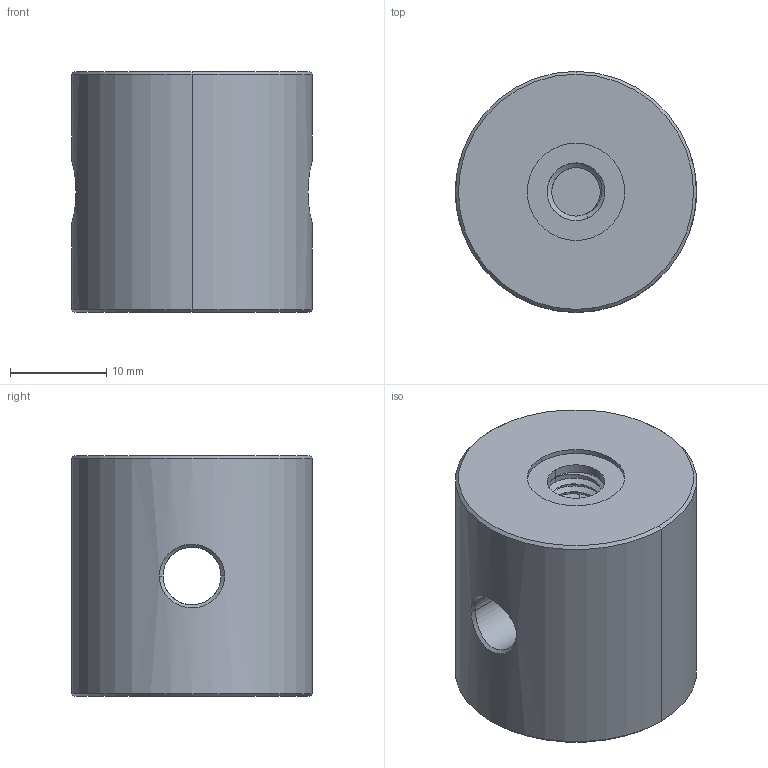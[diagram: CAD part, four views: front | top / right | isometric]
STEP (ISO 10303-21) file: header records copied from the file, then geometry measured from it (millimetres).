
FILE_DESCRIPTION((''),'2;1');
FILE_NAME('PFC-25-S2','2022-10-10T',('daizh'),(''),'CREO PARAMETRIC BY PTC INC, 2018360','CREO PARAMETRIC BY PTC INC, 2018360','');
FILE_SCHEMA(('CONFIG_CONTROL_DESIGN'));
Length unit declared in the file: millimetre
Products named in the file (1): PFC-25-S2
Bounding box: 25 x 25 x 25 mm (x, y, z)
Volume: 11206.3 mm3; surface area: 3655 mm2
Topology: 1 solids, 1 shells, 74 faces, 189 edges, 121 vertices
Faces by surface type: cylinder 42, bspline 22, plane 6, cone 4
Entity records: 5632 total; most frequent: CARTESIAN_POINT 4046, ORIENTED_EDGE 378, DIRECTION 215, EDGE_CURVE 189, VERTEX_POINT 121, B_SPLINE_CURVE_WITH_KNOTS 101, EDGE_LOOP 80, AXIS2_PLACEMENT_3D 75
